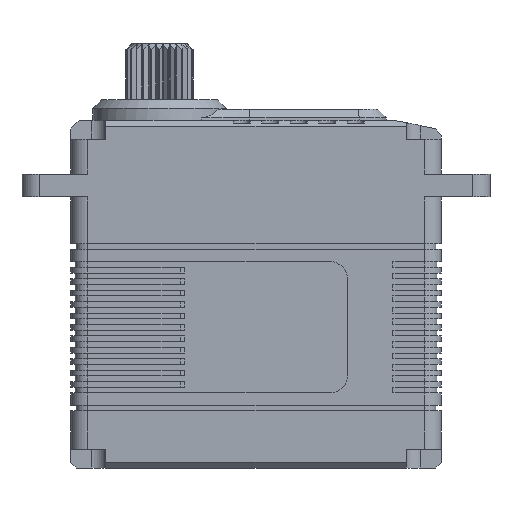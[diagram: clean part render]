
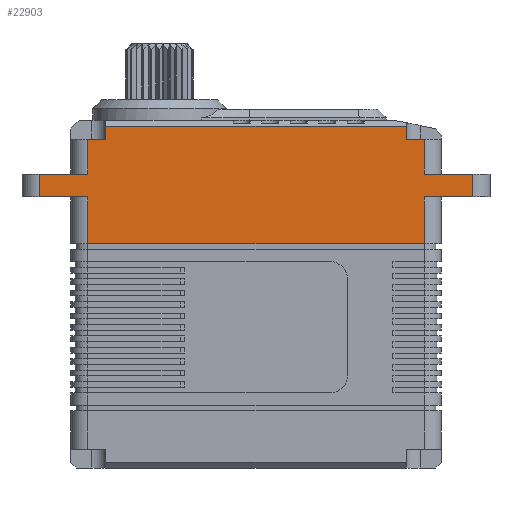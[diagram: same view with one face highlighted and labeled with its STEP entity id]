
A CAD part, front view. The second image highlights one B-rep face of the part: STEP entity #22903.
In plain terms, the highlighted planar face has unit normal (0, -1, 0).
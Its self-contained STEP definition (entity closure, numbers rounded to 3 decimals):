
#22 = VECTOR ( 'NONE', #11857, 1000. ) ;
#538 = VECTOR ( 'NONE', #10729, 1000. ) ;
#650 = DIRECTION ( 'NONE',  ( -1., 0., 0. ) ) ;
#865 = LINE ( 'NONE', #26871, #16054 ) ;
#947 = LINE ( 'NONE', #16066, #18627 ) ;
#1331 = VERTEX_POINT ( 'NONE', #24614 ) ;
#1439 = CARTESIAN_POINT ( 'NONE',  ( -55.523, -5.301, 27.75 ) ) ;
#1538 = LINE ( 'NONE', #3689, #21673 ) ;
#1874 = VECTOR ( 'NONE', #17690, 1000. ) ;
#2376 = LINE ( 'NONE', #7041, #33609 ) ;
#2391 = CARTESIAN_POINT ( 'NONE',  ( 8.777, -5.301, 30.05 ) ) ;
#2736 = DIRECTION ( 'NONE',  ( 0., 0., 1. ) ) ;
#2857 = DIRECTION ( 'NONE',  ( -1., 0., 0. ) ) ;
#3241 = VERTEX_POINT ( 'NONE', #29941 ) ;
#3689 = CARTESIAN_POINT ( 'NONE',  ( -59.723, -5.301, 30.05 ) ) ;
#3762 = DIRECTION ( 'NONE',  ( 0., 0., 1. ) ) ;
#4043 = ORIENTED_EDGE ( 'NONE', *, *, #21383, .F. ) ;
#4163 = CARTESIAN_POINT ( 'NONE',  ( 0.277, -5.301, 21.65 ) ) ;
#4519 = ORIENTED_EDGE ( 'NONE', *, *, #15659, .T. ) ;
#4601 = LINE ( 'NONE', #29429, #14085 ) ;
#5114 = VECTOR ( 'NONE', #9274, 1000. ) ;
#5211 = DIRECTION ( 'NONE',  ( 1., 0., 0. ) ) ;
#5418 = VERTEX_POINT ( 'NONE', #7634 ) ;
#5434 = CARTESIAN_POINT ( 'NONE',  ( -70.223, -5.301, 21.65 ) ) ;
#5936 = ORIENTED_EDGE ( 'NONE', *, *, #17913, .T. ) ;
#6226 = CARTESIAN_POINT ( 'NONE',  ( 8.777, -5.301, 17.65 ) ) ;
#6302 = DIRECTION ( 'NONE',  ( 1., 0., 0. ) ) ;
#6439 = DIRECTION ( 'NONE',  ( 1., 0., 0. ) ) ;
#6805 = VECTOR ( 'NONE', #33185, 1000. ) ;
#6822 = EDGE_CURVE ( 'NONE', #15613, #5418, #865, .T. ) ;
#7041 = CARTESIAN_POINT ( 'NONE',  ( 0.277, -5.301, 27.75 ) ) ;
#7377 = VERTEX_POINT ( 'NONE', #21865 ) ;
#7620 = LINE ( 'NONE', #33067, #6805 ) ;
#7634 = CARTESIAN_POINT ( 'NONE',  ( -58.723, -5.301, 9.42 ) ) ;
#7964 = LINE ( 'NONE', #32817, #5114 ) ;
#8128 = VECTOR ( 'NONE', #17624, 1000. ) ;
#8599 = DIRECTION ( 'NONE',  ( 0., 0., -1. ) ) ;
#8739 = ORIENTED_EDGE ( 'NONE', *, *, #24002, .F. ) ;
#8753 = VECTOR ( 'NONE', #32063, 1000. ) ;
#9226 = DIRECTION ( 'NONE',  ( -1., 0., 0. ) ) ;
#9274 = DIRECTION ( 'NONE',  ( 0., 0., -1. ) ) ;
#9566 = CARTESIAN_POINT ( 'NONE',  ( -58.723, -5.301, 21.65 ) ) ;
#10221 = EDGE_LOOP ( 'NONE', ( #24348, #26270, #21607, #31013, #11199, #33504, #28659, #14867, #4043, #8739, #24674, #4519, #15021, #25799, #11433, #5936 ) ) ;
#10342 = VECTOR ( 'NONE', #9226, 1000. ) ;
#10729 = DIRECTION ( 'NONE',  ( 0., 0., -1. ) ) ;
#11183 = CARTESIAN_POINT ( 'NONE',  ( -2.923, -5.301, 30.05 ) ) ;
#11199 = ORIENTED_EDGE ( 'NONE', *, *, #20343, .T. ) ;
#11433 = ORIENTED_EDGE ( 'NONE', *, *, #12658, .F. ) ;
#11857 = DIRECTION ( 'NONE',  ( 0., 0., -1. ) ) ;
#12569 = EDGE_CURVE ( 'NONE', #29678, #7377, #2376, .T. ) ;
#12583 = VECTOR ( 'NONE', #6302, 1000. ) ;
#12658 = EDGE_CURVE ( 'NONE', #18794, #32376, #18022, .T. ) ;
#14085 = VECTOR ( 'NONE', #8599, 1000. ) ;
#14369 = CARTESIAN_POINT ( 'NONE',  ( -67.223, -5.301, 21.65 ) ) ;
#14867 = ORIENTED_EDGE ( 'NONE', *, *, #24961, .F. ) ;
#15021 = ORIENTED_EDGE ( 'NONE', *, *, #29261, .F. ) ;
#15149 = VERTEX_POINT ( 'NONE', #14369 ) ;
#15352 = VERTEX_POINT ( 'NONE', #24636 ) ;
#15559 = VECTOR ( 'NONE', #5211, 1000. ) ;
#15613 = VERTEX_POINT ( 'NONE', #26232 ) ;
#15659 = EDGE_CURVE ( 'NONE', #1331, #33317, #4601, .T. ) ;
#16054 = VECTOR ( 'NONE', #650, 1000. ) ;
#16066 = CARTESIAN_POINT ( 'NONE',  ( 11.777, -5.301, 21.65 ) ) ;
#16693 = CARTESIAN_POINT ( 'NONE',  ( 11.777, -5.301, 17.65 ) ) ;
#16730 = CARTESIAN_POINT ( 'NONE',  ( -59.723, -5.301, 30.05 ) ) ;
#16868 = LINE ( 'NONE', #19246, #22 ) ;
#17624 = DIRECTION ( 'NONE',  ( -1., 0., 0. ) ) ;
#17690 = DIRECTION ( 'NONE',  ( 0., 0., 1. ) ) ;
#17838 = VERTEX_POINT ( 'NONE', #6226 ) ;
#17913 = EDGE_CURVE ( 'NONE', #18794, #5418, #16868, .T. ) ;
#18022 = LINE ( 'NONE', #33347, #8128 ) ;
#18627 = VECTOR ( 'NONE', #2857, 1000. ) ;
#18658 = CARTESIAN_POINT ( 'NONE',  ( -60.773, -5.301, 27.75 ) ) ;
#18794 = VERTEX_POINT ( 'NONE', #24198 ) ;
#18919 = CARTESIAN_POINT ( 'NONE',  ( -2.923, -5.301, 30.05 ) ) ;
#19246 = CARTESIAN_POINT ( 'NONE',  ( -58.723, -5.301, 30.05 ) ) ;
#19287 = VERTEX_POINT ( 'NONE', #11183 ) ;
#19865 = EDGE_CURVE ( 'NONE', #1331, #31586, #23559, .T. ) ;
#20343 = EDGE_CURVE ( 'NONE', #15352, #29678, #947, .T. ) ;
#20357 = LINE ( 'NONE', #23991, #22792 ) ;
#20830 = LINE ( 'NONE', #31498, #12583 ) ;
#21383 = EDGE_CURVE ( 'NONE', #25944, #19287, #1538, .T. ) ;
#21607 = ORIENTED_EDGE ( 'NONE', *, *, #25121, .F. ) ;
#21673 = VECTOR ( 'NONE', #6439, 1000. ) ;
#21865 = CARTESIAN_POINT ( 'NONE',  ( 0.277, -5.301, 27.75 ) ) ;
#22028 = EDGE_CURVE ( 'NONE', #15149, #32376, #7964, .T. ) ;
#22306 = LINE ( 'NONE', #18919, #538 ) ;
#22573 = VERTEX_POINT ( 'NONE', #24415 ) ;
#22792 = VECTOR ( 'NONE', #2736, 1000. ) ;
#22903 = ADVANCED_FACE ( 'NONE', ( #33737 ), #32146, .F. ) ;
#23559 = LINE ( 'NONE', #18658, #8753 ) ;
#23991 = CARTESIAN_POINT ( 'NONE',  ( 0.277, -5.301, 30.05 ) ) ;
#24002 = EDGE_CURVE ( 'NONE', #31586, #25944, #7620, .T. ) ;
#24153 = EDGE_CURVE ( 'NONE', #17838, #15352, #26157, .T. ) ;
#24198 = CARTESIAN_POINT ( 'NONE',  ( -58.723, -5.301, 17.65 ) ) ;
#24348 = ORIENTED_EDGE ( 'NONE', *, *, #6822, .F. ) ;
#24415 = CARTESIAN_POINT ( 'NONE',  ( -2.923, -5.301, 27.75 ) ) ;
#24566 = DIRECTION ( 'NONE',  ( 0., 1., 0. ) ) ;
#24614 = CARTESIAN_POINT ( 'NONE',  ( -58.723, -5.301, 27.75 ) ) ;
#24636 = CARTESIAN_POINT ( 'NONE',  ( 8.777, -5.301, 21.65 ) ) ;
#24674 = ORIENTED_EDGE ( 'NONE', *, *, #19865, .F. ) ;
#24961 = EDGE_CURVE ( 'NONE', #19287, #22573, #22306, .T. ) ;
#25001 = AXIS2_PLACEMENT_3D ( 'NONE', #16730, #24566, #3762 ) ;
#25121 = EDGE_CURVE ( 'NONE', #17838, #3241, #29301, .T. ) ;
#25799 = ORIENTED_EDGE ( 'NONE', *, *, #22028, .T. ) ;
#25944 = VERTEX_POINT ( 'NONE', #28776 ) ;
#26157 = LINE ( 'NONE', #2391, #1874 ) ;
#26232 = CARTESIAN_POINT ( 'NONE',  ( 0.277, -5.301, 9.42 ) ) ;
#26270 = ORIENTED_EDGE ( 'NONE', *, *, #32401, .T. ) ;
#26316 = CARTESIAN_POINT ( 'NONE',  ( -67.223, -5.301, 17.65 ) ) ;
#26871 = CARTESIAN_POINT ( 'NONE',  ( 0.277, -5.301, 9.42 ) ) ;
#28659 = ORIENTED_EDGE ( 'NONE', *, *, #31900, .F. ) ;
#28776 = CARTESIAN_POINT ( 'NONE',  ( -55.523, -5.301, 30.05 ) ) ;
#29261 = EDGE_CURVE ( 'NONE', #15149, #33317, #30385, .T. ) ;
#29301 = LINE ( 'NONE', #16693, #10342 ) ;
#29429 = CARTESIAN_POINT ( 'NONE',  ( -58.723, -5.301, 30.05 ) ) ;
#29678 = VERTEX_POINT ( 'NONE', #4163 ) ;
#29941 = CARTESIAN_POINT ( 'NONE',  ( 0.277, -5.301, 17.65 ) ) ;
#30385 = LINE ( 'NONE', #5434, #15559 ) ;
#30643 = DIRECTION ( 'NONE',  ( 0., 0., 1. ) ) ;
#31013 = ORIENTED_EDGE ( 'NONE', *, *, #24153, .T. ) ;
#31498 = CARTESIAN_POINT ( 'NONE',  ( -2.923, -5.301, 27.75 ) ) ;
#31586 = VERTEX_POINT ( 'NONE', #1439 ) ;
#31900 = EDGE_CURVE ( 'NONE', #22573, #7377, #20830, .T. ) ;
#32063 = DIRECTION ( 'NONE',  ( 1., 0., 0. ) ) ;
#32146 = PLANE ( 'NONE',  #25001 ) ;
#32376 = VERTEX_POINT ( 'NONE', #26316 ) ;
#32401 = EDGE_CURVE ( 'NONE', #15613, #3241, #20357, .T. ) ;
#32817 = CARTESIAN_POINT ( 'NONE',  ( -67.223, -5.301, 30.05 ) ) ;
#33067 = CARTESIAN_POINT ( 'NONE',  ( -55.523, -5.301, 27.75 ) ) ;
#33185 = DIRECTION ( 'NONE',  ( 0., 0., 1. ) ) ;
#33317 = VERTEX_POINT ( 'NONE', #9566 ) ;
#33347 = CARTESIAN_POINT ( 'NONE',  ( -61.723, -5.301, 17.65 ) ) ;
#33504 = ORIENTED_EDGE ( 'NONE', *, *, #12569, .T. ) ;
#33609 = VECTOR ( 'NONE', #30643, 1000. ) ;
#33737 = FACE_OUTER_BOUND ( 'NONE', #10221, .T. ) ;
